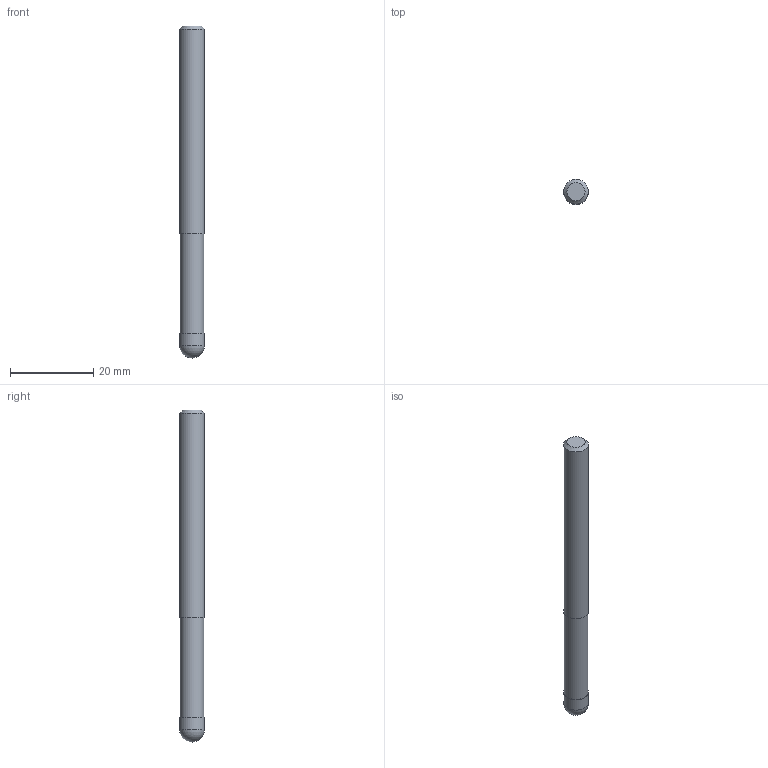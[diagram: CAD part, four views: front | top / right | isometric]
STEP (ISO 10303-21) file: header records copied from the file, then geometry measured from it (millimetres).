
FILE_DESCRIPTION((''),'2;1');
FILE_NAME('C:\Users\nsx150\AppData\Local\Temp\Mastercam 2021\ARV7HD45SN\TEMP.step','2023-06-13T16:39:51',(''),(''),'STEP Write','Mastercam 2021 ... CNC Software, Inc.','');
FILE_SCHEMA(('AUTOMOTIVE_DESIGN'));
Length unit declared in the file: millimetre
Products named in the file (1): None
Bounding box: 6 x 6 x 80 mm (x, y, z)
Volume: 2162 mm3; surface area: 1560.5 mm2
Topology: 2 solids, 2 shells, 9 faces, 13 edges, 8 vertices
Faces by surface type: plane 4, cylinder 3, sphere 1, cone 1
Full cylindrical faces by diameter (mm): 5.7 x1, 6 x2
Entity records: 211 total; most frequent: DIRECTION 36, CARTESIAN_POINT 25, AXIS2_PLACEMENT_3D 18, ORIENTED_EDGE 14, EDGE_LOOP 14, STYLED_ITEM 12, ADVANCED_FACE 9, FACE_BOUND 8
